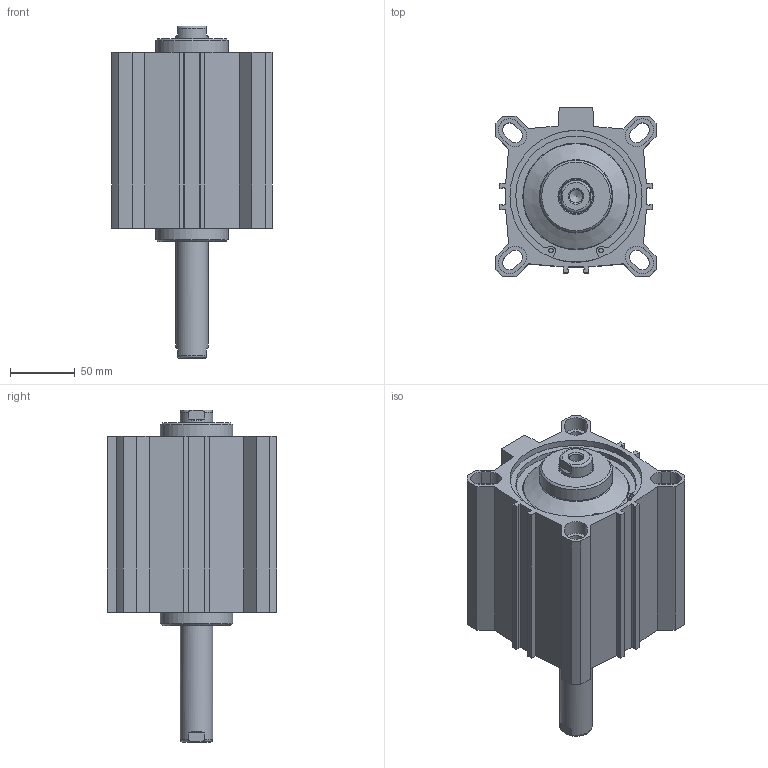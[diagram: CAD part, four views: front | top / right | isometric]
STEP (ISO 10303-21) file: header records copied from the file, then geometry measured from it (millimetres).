
FILE_DESCRIPTION(/* description */ ('Unknown'),/* implementation_level */ '2;1');
FILE_NAME(/* name */ 'FBN 100_80',/* time_stamp */ '2026-04-29T12:19:47+02:00',/* author */ ('Unknown'),/* organization */ ('Unknown'),/* preprocessor_version */ 'ST-DEVELOPER v18.102',/* originating_system */ 'Solid Edge',/* authorisation */ 'Unknown');
FILE_SCHEMA (('AUTOMOTIVE_DESIGN {1 0 10303 214 3 1 1}'));
Length unit declared in the file: millimetre
Products named in the file (4): FBN 100_80; Kolbenstange; Profilrohr; Kit
Assembly tree (5 placements, depth 2):
  FBN 100_80
    Kolbenstange  x2
    Profilrohr
    Kit  x2
Bounding box: 124 x 131 x 257 mm (x, y, z)
Volume: 1082442.5 mm3; surface area: 275335.4 mm2
Topology: 5 solids, 5 shells, 297 faces, 729 edges, 468 vertices
Faces by surface type: plane 140, cylinder 103, cone 38, torus 16
Full cylindrical faces by diameter (mm): 3.5 x4, 5.25 x2, 10.106 x4, 11.445 x4, 25 x2, 25.6 x2, 26.9 x2, 28 x2, 29.8 x2, 30 x2, 56 x2, 100 x3, 101.7 x4, 102.2 x2, 106.2 x2
Entity records: 8712 total; most frequent: CARTESIAN_POINT 1324, DIRECTION 1208, ORIENTED_EDGE 1074, EDGE_CURVE 537, AXIS2_PLACEMENT_3D 440, VERTEX_POINT 382, FACE_BOUND 329, LINE 328
